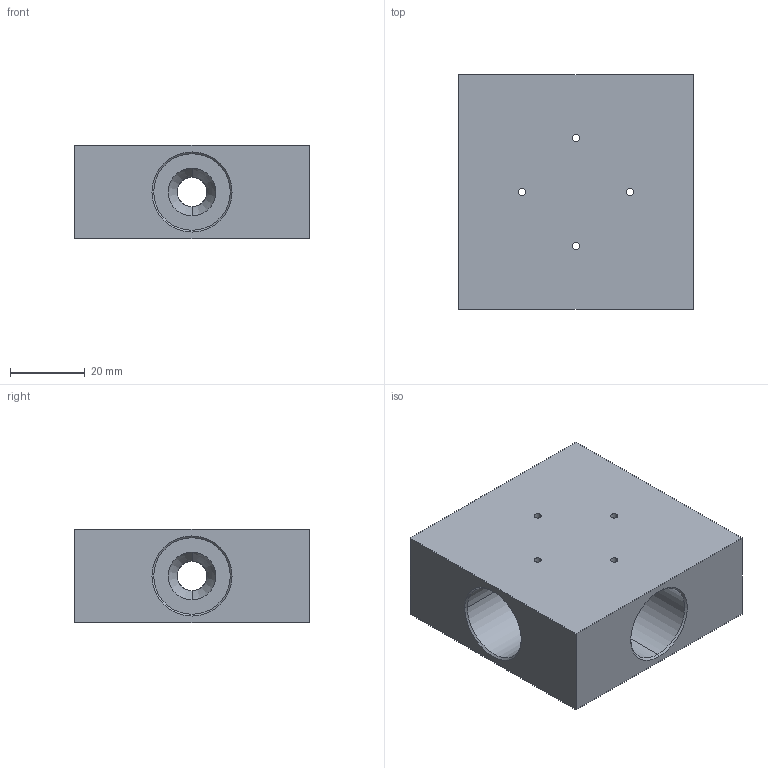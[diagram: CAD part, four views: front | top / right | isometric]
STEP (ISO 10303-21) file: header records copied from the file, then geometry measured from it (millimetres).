
FILE_DESCRIPTION (( 'STEP AP203' ), '1' );
FILE_NAME ('FT20CS09.STEP', '2026-06-26T00:48:50', ( 'USER' ), ( '' ), 'SwSTEP 2.0', 'SolidWorks 2023', '' );
FILE_SCHEMA (( 'CONFIG_CONTROL_DESIGN' ));
Length unit declared in the file: millimetre
Products named in the file (1): FT20CS09
Bounding box: 63 x 63 x 25 mm (x, y, z)
Volume: 71305.7 mm3; surface area: 19815.1 mm2
Topology: 1 solids, 1 shells, 58 faces, 148 edges, 90 vertices
Faces by surface type: cylinder 32, cone 16, plane 10
Entity records: 2077 total; most frequent: CARTESIAN_POINT 573, ORIENTED_EDGE 296, DIRECTION 294, EDGE_CURVE 148, AXIS2_PLACEMENT_3D 115, VERTEX_POINT 90, EDGE_LOOP 78, LINE 64
